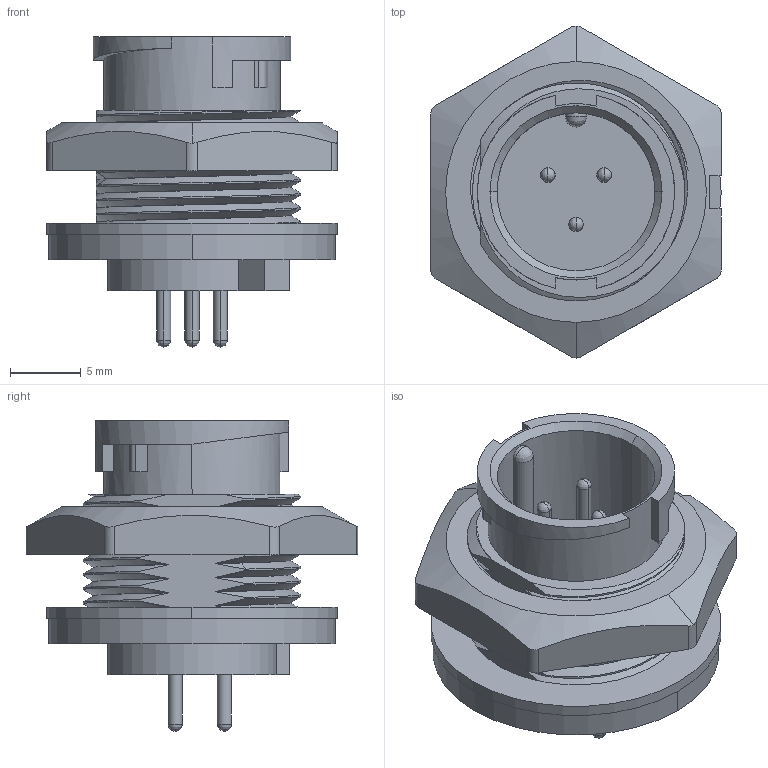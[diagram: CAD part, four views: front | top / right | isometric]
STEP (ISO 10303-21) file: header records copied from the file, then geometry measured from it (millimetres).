
FILE_DESCRIPTION (( 'STEP AP203' ), '1' );
FILE_NAME ('870-03B-113R001.STEP', '2024-06-14T18:45:30', ( '' ), ( '' ), 'SwSTEP 2.0', 'SolidWorks 2020', '' );
FILE_SCHEMA (( 'CONFIG_CONTROL_DESIGN' ));
Length unit declared in the file: millimetre
Products named in the file (1): 870-03B-113R001
Bounding box: 20.6 x 23.54 x 22 mm (x, y, z)
Volume: 2597.1 mm3; surface area: 3394.6 mm2
Topology: 2 solids, 2 shells, 204 faces, 542 edges, 334 vertices
Faces by surface type: cylinder 75, bspline 57, plane 49, cone 23
Entity records: 12347 total; most frequent: CARTESIAN_POINT 7819, ORIENTED_EDGE 1032, DIRECTION 750, EDGE_CURVE 516, VERTEX_POINT 334, AXIS2_PLACEMENT_3D 296, EDGE_LOOP 224, B_SPLINE_CURVE_WITH_KNOTS 210
